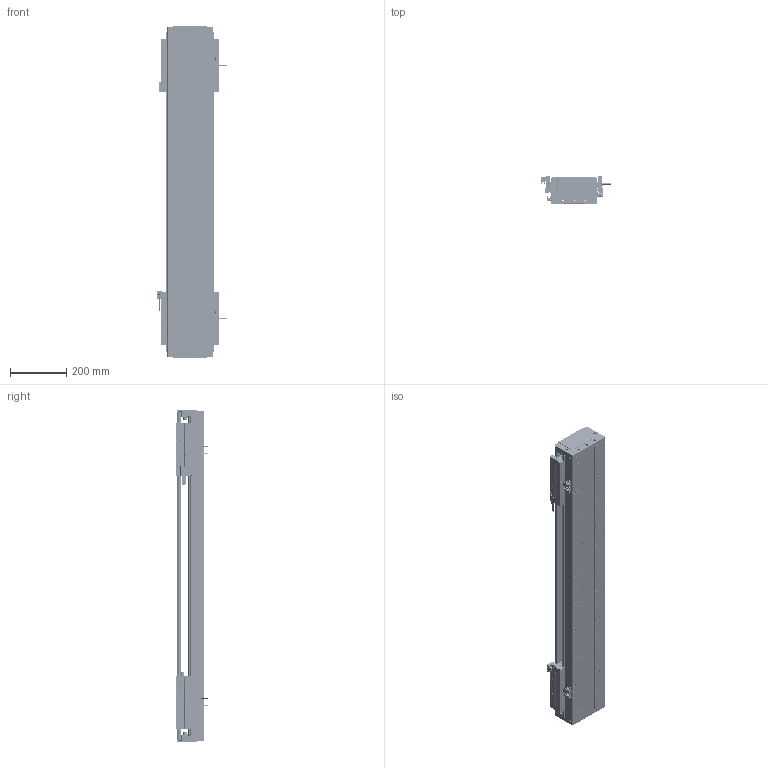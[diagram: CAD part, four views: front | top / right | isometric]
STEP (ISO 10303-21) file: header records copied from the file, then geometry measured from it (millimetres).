
FILE_DESCRIPTION (( 'STEP AP203' ), '1' );
FILE_NAME ('DA-C165-2-C2-T680-C010-0.2 直线电机.STEP', '2023-05-11T08:17:28', ( '微软用户' ), ( '微软中国' ), 'SwSTEP 2.0', 'SolidWorks 2019', '' );
FILE_SCHEMA (( 'CONFIG_CONTROL_DESIGN' ));
Length unit declared in the file: millimetre
Products named in the file (19): 复件 DKW-HXJ-JY-00 缓冲橡胶^DA-C165-C2-T-C010-0.2-N 直线电机; 复件 CKM02-W075-C1C2-TP-3.0 一体电机-C2^DA-C165-C2-T-C010-0.2-N 直线电机; 复件 六角薄螺母 M3^DA-C165-C2-T-C010-0.2-N 直线电机_GB_FASTENER_NUT_STNAB M3-C; 葩璃 PM-T45^DA-C165-C2-T-C010-0.2-N 眻盄萇儂; 复件 XD-U-02L 磁栅尺^DA-C165-C2-T-C010-0.2-N 直线电机_T; IU-CU165-L 菁釱絳寢; 复件 66338-1000-006-00 光电感应块^DA-C165-C2-T-C010-0.2-N 直线电机; 复件 DMA-010-0.2 读数头^DA-C165-C2-T-C010-0.2-N 直线电机; 复件 DA95-HXJ-00 缓冲橡胶^DA-C165-C2-T-C010-0.2-N 直线电机; 复件 DA165-T-002-00 盖板^DA-C165-C2-T-C010-0.2-N 直线电机_0840-002-00; 葩璃 DA95-GT-T-00^IU-CU165-L 菁釱絳寢_T; 葩璃 PM-Y45^DA-C165-C2-T-C010-0.2-N 眻盄萇儂; 复件 DA165-DG-H-N-00 端盖^DA-C165-C2-T-C010-0.2-N 直线电机; IU-CU165-L-00 菁釱_L1140; 复件 DA165-GYP-00 光电感应片^DA-C165-C2-T-C010-0.2-N 直线电机; 珨极趙賑雄怢啣wf-C2; 复件 DA126-GYP-ZJ-00 中间光电感应片^DA-C165-C2-T-C010-0.2-N 直线电机; DA-C165-2-C2-T680-C010-0.2 眻盄萇儂; 葩璃 CKM01-W075-TRL^DA-C165-C2-T-C010-0.2-N 眻盄萇儂
Assembly tree (38 placements, depth 3):
  DA-C165-2-C2-T680-C010-0.2 眻盄萇儂
    IU-CU165-L 菁釱絳寢
      IU-CU165-L-00 菁釱_L1140
      葩璃 DA95-GT-T-00^IU-CU165-L 菁釱絳寢_T  x4
    复件 DA165-DG-H-N-00 端盖^DA-C165-C2-T-C010-0.2-N 直线电机  x2
    复件 DA95-HXJ-00 缓冲橡胶^DA-C165-C2-T-C010-0.2-N 直线电机  x4
    复件 DA165-T-002-00 盖板^DA-C165-C2-T-C010-0.2-N 直线电机_0840-002-00
    复件 XD-U-02L 磁栅尺^DA-C165-C2-T-C010-0.2-N 直线电机_T
    葩璃 PM-T45^DA-C165-C2-T-C010-0.2-N 眻盄萇儂  x4
    葩璃 CKM01-W075-TRL^DA-C165-C2-T-C010-0.2-N 眻盄萇儂
    复件 CKM02-W075-C1C2-TP-3.0 一体电机-C2^DA-C165-C2-T-C010-0.2-N 直线电机  x2
    复件 DMA-010-0.2 读数头^DA-C165-C2-T-C010-0.2-N 直线电机  x2
    复件 DA165-GYP-00 光电感应片^DA-C165-C2-T-C010-0.2-N 直线电机  x2
    复件 66338-1000-006-00 光电感应块^DA-C165-C2-T-C010-0.2-N 直线电机
    葩璃 PM-Y45^DA-C165-C2-T-C010-0.2-N 眻盄萇儂
    复件 DA126-GYP-ZJ-00 中间光电感应片^DA-C165-C2-T-C010-0.2-N 直线电机
    复件 DKW-HXJ-JY-00 缓冲橡胶^DA-C165-C2-T-C010-0.2-N 直线电机  x2
    复件 六角薄螺母 M3^DA-C165-C2-T-C010-0.2-N 直线电机_GB_FASTENER_NUT_STNAB M3-C  x6
    珨极趙賑雄怢啣wf-C2  x2
Bounding box: 247.2 x 111.45 x 1180 mm (x, y, z)
Volume: 10011275.1 mm3; surface area: 2616656.2 mm2
Topology: 115 solids, 115 shells, 4912 faces, 13161 edges, 8198 vertices
Faces by surface type: cylinder 2366, plane 1770, cone 680, torus 88, sphere 8
Entity records: 100918 total; most frequent: CARTESIAN_POINT 23608, DIRECTION 15781, ORIENTED_EDGE 15568, EDGE_CURVE 7784, AXIS2_PLACEMENT_3D 5884, VERTEX_POINT 5035, VECTOR 4013, LINE 4013
